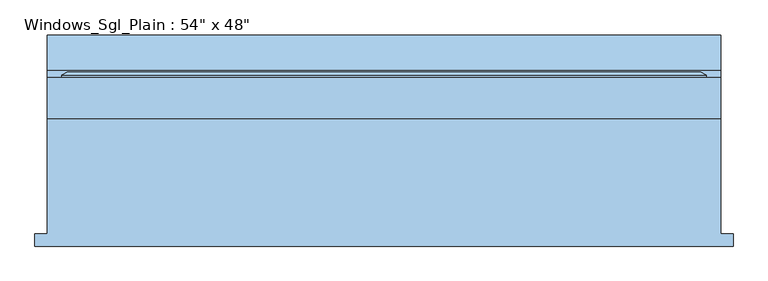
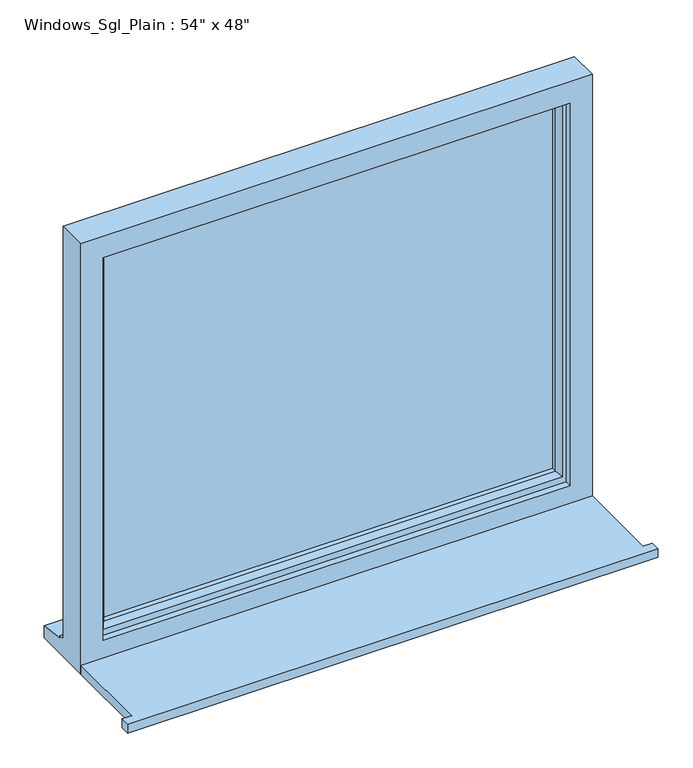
"""IFC4 building model written with IfcOpenShell, lengths in millimetres: window geometry."""

import ifcopenshell
import ifcopenshell.guid

model = None  # the IFC model being written
_history = None  # IfcOwnerHistory: only IFC2X3 demands one
_inside = {}  # id of a spatial element -> (the spatial element, [elements in it])
_under = {}  # id of a project, library or spatial element -> (it, [spatial elements below it])
_declared = {}  # id of a project -> (the project, [libraries it declares])
_typed = {}  # id of a type object -> (the type object, [elements of that type])
_made_of = {}  # id of a material, layer set ... -> (it, [elements and type objects made of it])


def new_model(schema):
    """Start an empty IFC model of exactly this schema.

    Asked for "IFC4X3", IfcOpenShell would pick the latest addendum, in which some entities
    have other attributes; the version numbers below select the first issue.
    IFC2X3 requires an IfcOwnerHistory on every rooted entity: one is made here for all.
    """
    global model, _history
    if schema == "IFC4X3":
        model = ifcopenshell.file(schema_version=(4, 3, 0, 0))
    else:
        model = ifcopenshell.file(schema=schema)
    _inside.clear()
    _under.clear()
    _declared.clear()
    _typed.clear()
    _made_of.clear()
    _history = None
    if model.schema == "IFC2X3":
        org = make("IfcOrganization", Name="unknown")
        user = make(
            "IfcPersonAndOrganization",
            ThePerson=make("IfcPerson", FamilyName="unknown"),
            TheOrganization=org,
        )
        app = make(
            "IfcApplication",
            ApplicationDeveloper=org,
            Version="unknown",
            ApplicationFullName="unknown",
            ApplicationIdentifier="unknown",
        )
        _history = make(
            "IfcOwnerHistory",
            OwningUser=user,
            OwningApplication=app,
            ChangeAction="ADDED",
            CreationDate=0,
        )
    return model


def make(cls, **values):
    """One entity of the class cls with the attributes given. An attribute that is None is left unset."""
    return model.create_entity(
        cls, **{name: value for name, value in values.items() if value is not None}
    )


def rooted(cls, **values):
    """An entity with a GlobalId (a new one), such as an element, a storey or a relation."""
    return make(cls, GlobalId=ifcopenshell.guid.new(), OwnerHistory=_history, **values)


def si_unit(unit_type, name, prefix=None):
    """IfcSIUnit, for example si_unit("LENGTHUNIT", "METRE", prefix="MILLI")."""
    return make("IfcSIUnit", UnitType=unit_type, Prefix=prefix, Name=name)


def assignment(units):
    """IfcUnitAssignment: the units of a project."""
    return None if units is None else make("IfcUnitAssignment", Units=units)


def point(xyz):
    """IfcCartesianPoint."""
    return None if xyz is None else make("IfcCartesianPoint", Coordinates=xyz)


def direction(xyz):
    """IfcDirection."""
    return None if xyz is None else make("IfcDirection", DirectionRatios=xyz)


def frame(location, z_axis=None, x_axis=None):
    """IfcAxis2Placement3D, a coordinate frame: its origin and axes. An axis left out is left unset."""
    return make(
        "IfcAxis2Placement3D",
        Location=point(location),
        Axis=direction(z_axis),
        RefDirection=direction(x_axis),
    )


def origin():
    """The frame at (0, 0, 0) with its axes left unset."""
    return frame((0.0, 0.0, 0.0))


def place(relative_to, where):
    """IfcLocalPlacement: puts the frame where relative to a parent placement (None: the world)."""
    return make(
        "IfcLocalPlacement", PlacementRelTo=relative_to, RelativePlacement=where
    )


def context(
    kind, dimensions, precision=None, world=None, true_north=None, identifier=None
):
    """IfcGeometricRepresentationContext, for example the 3D "Model" context."""
    return make(
        "IfcGeometricRepresentationContext",
        ContextIdentifier=identifier,
        ContextType=kind,
        CoordinateSpaceDimension=dimensions,
        Precision=precision,
        WorldCoordinateSystem=world,
        TrueNorth=true_north,
    )


def project(units=None, contexts=None):
    """IfcProject with its units and contexts."""
    return rooted(
        "IfcProject",
        Name="project",
        RepresentationContexts=contexts,
        UnitsInContext=assignment(units),
    )


def spatial(cls, under=None, at=None, **own):
    """A site, building, storey or space (cls), placed at a placement, below another one or the project."""
    s = rooted(cls, ObjectPlacement=at, **own)
    if under is not None:
        _under.setdefault(under.id(), (under, []))[1].append(s)
    return s


def polyline(points):
    """IfcPolyline through the points."""
    return make("IfcPolyline", Points=[point(p) for p in points])


def outline(outer, holes=None, kind="AREA"):
    """IfcArbitraryClosedProfileDef: a profile drawn as a closed curve; with holes, ...WithVoids."""
    if holes is None:
        return make("IfcArbitraryClosedProfileDef", ProfileType=kind, OuterCurve=outer)
    return make(
        "IfcArbitraryProfileDefWithVoids",
        ProfileType=kind,
        OuterCurve=outer,
        InnerCurves=holes,
    )


def extrude(swept, where, along, depth):
    """IfcExtrudedAreaSolid: the profile swept, set in the frame where, extruded along a direction by depth."""
    return make(
        "IfcExtrudedAreaSolid",
        SweptArea=swept,
        Position=where,
        ExtrudedDirection=direction(along),
        Depth=depth,
    )


def faces_of(points, faces, orient=None, outer=None):
    """IfcFace entities. A face is a list of loops; a loop is a list of indices into points, from 0.

    orient and outer hold one flag for each loop. By default every Orientation is true, the
    first loop of a face is its IfcFaceOuterBound and the others are IfcFaceBound.
    """
    made = []
    for i, loops in enumerate(faces):
        bounds = []
        for j, loop in enumerate(loops):
            is_outer = j == 0 if outer is None else outer[i][j]
            bounds.append(
                make(
                    "IfcFaceOuterBound" if is_outer else "IfcFaceBound",
                    Bound=make("IfcPolyLoop", Polygon=[points[k] for k in loop]),
                    Orientation=True if orient is None else orient[i][j],
                )
            )
        made.append(make("IfcFace", Bounds=bounds))
    return made


def faceted_brep(points, faces, orient=None, outer=None, voids=None):
    """IfcFacetedBrep: a solid bounded by flat faces; with voids (closed shells), ...WithVoids."""
    shared = [point(p) for p in points]
    hull = make("IfcClosedShell", CfsFaces=faces_of(shared, faces, orient, outer))
    if voids is None:
        return make("IfcFacetedBrep", Outer=hull)
    return make(
        "IfcFacetedBrepWithVoids",
        Outer=hull,
        Voids=[
            make(cls, CfsFaces=faces_of(shared, fs, o, b)) for cls, fs, o, b in voids
        ],
    )


def shape(context_of_items, identifier, shape_type, items):
    """IfcShapeRepresentation: the items that make up one representation, for example the "Body"."""
    return make(
        "IfcShapeRepresentation",
        ContextOfItems=context_of_items,
        RepresentationIdentifier=identifier,
        RepresentationType=shape_type,
        Items=items,
    )


def source(mapping_origin, context_of_items, identifier, shape_type, items):
    """IfcRepresentationMap: a shape defined once, which mapped items show again and again."""
    return make(
        "IfcRepresentationMap",
        MappingOrigin=mapping_origin,
        MappedRepresentation=shape(context_of_items, identifier, shape_type, items),
    )


def transform(
    local_origin,
    x_axis=None,
    y_axis=None,
    z_axis=None,
    scale=None,
    scale2=None,
    scale3=None,
    uniform=True,
):
    """IfcCartesianTransformationOperator3D, or its non-uniform kind. x_axis, y_axis, z_axis: its Axis1, 2, 3."""
    if uniform:
        return make(
            "IfcCartesianTransformationOperator3D",
            Axis1=direction(x_axis),
            Axis2=direction(y_axis),
            LocalOrigin=point(local_origin),
            Scale=scale,
            Axis3=direction(z_axis),
        )
    return make(
        "IfcCartesianTransformationOperator3DnonUniform",
        Axis1=direction(x_axis),
        Axis2=direction(y_axis),
        LocalOrigin=point(local_origin),
        Scale=scale,
        Axis3=direction(z_axis),
        Scale2=scale2,
        Scale3=scale3,
    )


def mapped(mapping_source, mapping_target):
    """IfcMappedItem: shows the shape of a source again, moved by a transform."""
    return make(
        "IfcMappedItem", MappingSource=mapping_source, MappingTarget=mapping_target
    )


def made_of(thing, what):
    """Note that an element or type object is made of a material, layer set ...; save() writes the relation."""
    if what is not None:
        _made_of.setdefault(what.id(), (what, []))[1].append(thing)
    return thing


def element(
    cls,
    number,
    at=None,
    inside=None,
    cuts=None,
    type_object=None,
    material=None,
    context=None,
    identifier="Body",
    shape_type=None,
    held_by="IfcProductDefinitionShape",
    body=None,
    shapes=None,
    **own,
):
    """One element of the class cls, such as IfcWall. Its Tag is "e" and its number.

    at: its placement. inside: the storey or other place that contains it. cuts: it is an
    opening in that element (IfcRelVoidsElement). A single representation is given by context,
    identifier, shape_type and body (its items); several are given by shapes. held_by: the class
    of the entity that holds the representations. save() writes the other relations.
    """
    e = rooted(cls, Tag="e%d" % number, ObjectPlacement=at, **own)
    if body is not None:
        shapes = [shape(context, identifier, shape_type, body)]
    if shapes is not None:
        e.Representation = make(held_by, Representations=shapes)
    if inside is not None:
        _inside.setdefault(inside.id(), (inside, []))[1].append(e)
    if cuts is not None:
        rooted(
            "IfcRelVoidsElement", RelatingBuildingElement=cuts, RelatedOpeningElement=e
        )
    if type_object is not None:
        _typed.setdefault(type_object.id(), (type_object, []))[1].append(e)
    return made_of(e, material)


def aggregate(whole, parts):
    """IfcRelAggregates: a whole, such as a stair, and the parts it consists of."""
    return rooted("IfcRelAggregates", RelatingObject=whole, RelatedObjects=parts)


def save(model, path):
    """Write the relations noted so far, then the file.

    IfcRelAggregates (storeys below a building ...), IfcRelContainedInSpatialStructure (elements
    in a storey), IfcRelDefinesByType, IfcRelAssociatesMaterial and IfcRelDeclares: one each for
    every whole, place, type object, material and project.
    """
    for whole, parts in _under.values():
        aggregate(whole, parts)
    for where, things in _inside.values():
        rooted(
            "IfcRelContainedInSpatialStructure",
            RelatedElements=things,
            RelatingStructure=where,
        )
    for kind, things in _typed.values():
        rooted("IfcRelDefinesByType", RelatedObjects=things, RelatingType=kind)
    for what, things in _made_of.values():
        rooted("IfcRelAssociatesMaterial", RelatedObjects=things, RelatingMaterial=what)
    for by, libraries in _declared.values():
        rooted("IfcRelDeclares", RelatingContext=by, RelatedDefinitions=libraries)
    model.write(path)


def window_fa6a9634(model_context):
    return source(origin(), model_context, "Body", "SolidModel", [
        extrude(outline(polyline([(-710.8, -200.6934322), (-710.8, -175.6934322), (-685.8, -175.6934322), (-685.8, 59.6065678), (685.8, 59.6065678), (685.8, -175.6934322), (710.8, -175.6934322), (710.8, -200.6934322), (-710.8, -200.6934322)])), frame((0.0, 0.0, 890.8), z_axis=(0.0, 0.0, 1.0), x_axis=(1.0, 0.0, 0.0)), (0.0, 0.0, 1.0), 25.0),
        faceted_brep([(-685.8, 59.6065678, 890.8), (685.8, 59.6065678, 890.8), (685.8, 59.6065678, 2110.0), (-685.8, 59.6065678, 2110.0), (-625.8, 59.6065678, 2050.0), (625.8, 59.6065678, 2050.0), (625.8, 59.6065678, 965.8), (-625.8, 59.6065678, 965.8), (-685.8, 142.6065678, 2110.0), (-685.8, 142.6065678, 941.8), (-685.8, 157.6065678, 940.48767), (-685.8, 157.6065678, 935.5449676), (-685.8, 230.1065678, 924.6088847), (-685.8, 230.1065678, 890.8), (685.8, 142.6065678, 2110.0), (685.8, 142.6065678, 941.8), (-645.8, 142.6065678, 2070.0), (-645.8, 142.6065678, 953.8), (645.8, 142.6065678, 953.8), (645.8, 142.6065678, 2070.0), (-645.8, 77.6065678, 2070.0), (-645.8, 77.6065678, 953.8), (645.8, 77.6065678, 2070.0), (645.8, 77.6065678, 953.8), (-625.8, 77.6065678, 2050.0), (-625.8, 77.6065678, 965.8), (625.8, 77.6065678, 965.8), (625.8, 77.6065678, 2050.0), (685.8, 230.1065678, 890.8), (685.8, 230.1065678, 924.6088847), (685.8, 157.6065678, 935.5449676), (685.8, 157.6065678, 940.48767)], [[[0, 1, 2, 3], [4, 5, 6, 7]], [[0, 3, 8, 9, 10, 11, 12, 13]], [[9, 8, 14, 15], [16, 17, 18, 19]], [[17, 16, 20, 21]], [[20, 22, 23, 21], [24, 25, 26, 27]], [[24, 4, 7, 25]], [[3, 2, 14, 8]], [[16, 19, 22, 20]], [[5, 4, 24, 27]], [[15, 14, 2, 1, 28, 29, 30, 31]], [[19, 18, 23, 22]], [[5, 27, 26, 6]], [[28, 1, 0, 13]], [[29, 28, 13, 12]], [[30, 29, 12, 11]], [[31, 30, 11, 10]], [[15, 31, 10, 9]], [[21, 23, 18, 17]], [[7, 6, 26, 25]]]),
        extrude(outline(polyline([(615.8, 106.6065678), (-615.8, 106.6065678), (-615.8, 130.6065678), (615.8, 130.6065678), (615.8, 106.6065678)])), frame((0.0, 0.0, 983.8), z_axis=(0.0, 0.0, 1.0), x_axis=(1.0, 0.0, 0.0)), (0.0, 0.0, 1.0), 1056.2),
        faceted_brep([(-655.8, 142.6065678, 2080.0), (-655.8, 148.3800705, 2080.0), (-655.8, 148.3800705, 943.8), (-655.8, 142.6065678, 943.8), (-645.8, 77.6065678, 2070.0), (-645.8, 142.6065678, 2070.0), (-645.8, 142.6065678, 953.8), (-645.8, 77.6065678, 953.8), (-605.8, 92.0994677, 2030.0), (-615.9480377, 77.6065678, 2040.1480377), (-615.9480377, 77.6065678, 983.6519623), (-605.8, 92.0994677, 993.8), (-605.8, 106.6065678, 2030.0), (-605.8, 106.6065678, 993.8), (-615.8, 130.6065678, 2040.0), (-615.8, 106.6065678, 2040.0), (-615.8, 106.6065678, 983.8), (-615.8, 130.6065678, 983.8), (-605.8, 148.3800705, 2030.0), (-605.8, 130.6065678, 2030.0), (-605.8, 130.6065678, 993.8), (-605.8, 148.3800705, 993.8), (-623.2457548, 154.1535732, 2047.4457548), (-623.2457548, 154.1535732, 976.3542452), (-645.0153903, 154.1535732, 2069.2153903), (-645.0153903, 154.1535732, 954.5846097), (655.8, 148.3800705, 943.8), (655.8, 142.6065678, 943.8), (645.8, 142.6065678, 953.8), (645.8, 77.6065678, 953.8), (615.9480377, 77.6065678, 983.6519623), (605.8, 92.0994677, 993.8), (605.8, 106.6065678, 993.8), (615.8, 106.6065678, 983.8), (615.8, 130.6065678, 983.8), (605.8, 130.6065678, 993.8), (605.8, 148.3800705, 993.8), (623.2457548, 154.1535732, 976.3542452), (645.0153903, 154.1535732, 954.5846097), (655.8, 148.3800705, 2080.0), (655.8, 142.6065678, 2080.0), (645.8, 142.6065678, 2070.0), (645.8, 77.6065678, 2070.0), (615.9480377, 77.6065678, 2040.1480377), (605.8, 92.0994677, 2030.0), (605.8, 106.6065678, 2030.0), (615.8, 106.6065678, 2040.0), (615.8, 130.6065678, 2040.0), (605.8, 130.6065678, 2030.0), (605.8, 148.3800705, 2030.0), (623.2457548, 154.1535732, 2047.4457548), (645.0153903, 154.1535732, 2069.2153903)], [[[0, 1, 2, 3]], [[4, 5, 6, 7]], [[8, 9, 10, 11]], [[12, 8, 11, 13]], [[14, 15, 16, 17]], [[18, 19, 20, 21]], [[22, 18, 21, 23]], [[1, 24, 25, 2]], [[3, 2, 26, 27]], [[7, 6, 28, 29]], [[11, 10, 30, 31]], [[13, 11, 31, 32]], [[17, 16, 33, 34]], [[21, 20, 35, 36]], [[23, 21, 36, 37]], [[2, 25, 38, 26]], [[27, 26, 39, 40]], [[29, 28, 41, 42]], [[31, 30, 43, 44]], [[32, 31, 44, 45]], [[34, 33, 46, 47]], [[36, 35, 48, 49]], [[37, 36, 49, 50]], [[26, 38, 51, 39]], [[40, 39, 1, 0]], [[3, 27, 40, 0], [5, 41, 28, 6]], [[42, 41, 5, 4]], [[7, 29, 42, 4], [9, 43, 30, 10]], [[44, 43, 9, 8]], [[45, 44, 8, 12]], [[15, 46, 33, 16], [13, 32, 45, 12]], [[47, 46, 15, 14]], [[17, 34, 47, 14], [19, 48, 35, 20]], [[49, 48, 19, 18]], [[50, 49, 18, 22]], [[24, 51, 38, 25], [23, 37, 50, 22]], [[39, 51, 24, 1]]]),
    ])


if __name__ == "__main__":
    model = new_model("IFC4")
    model_context = context("Model", 3, world=origin())
    ifc_project = project(units=[si_unit("LENGTHUNIT", "METRE", prefix="MILLI")], contexts=[model_context])
    site = spatial("IfcSite", under=ifc_project)
    building = spatial("IfcBuilding", under=site)
    placement = place(None, origin())
    window_shape = window_fa6a9634(model_context)
    element("IfcWindow", 1, ObjectType="Windows_Sgl_Plain : 54\" x 48\"", at=placement, inside=building, context=model_context, shape_type="MappedRepresentation", body=[
        mapped(window_shape, transform((0.0, 0.0, 0.0), x_axis=(1.0, 0.0, 0.0), y_axis=(0.0, 1.0, 0.0), z_axis=(0.0, 0.0, 1.0))),
    ])
    save(model, "model.ifc")
